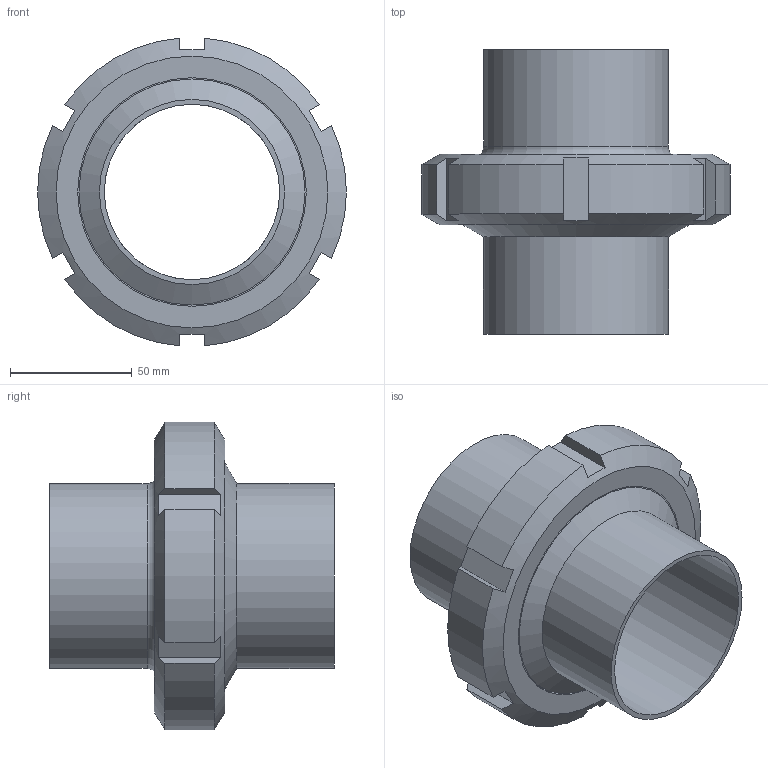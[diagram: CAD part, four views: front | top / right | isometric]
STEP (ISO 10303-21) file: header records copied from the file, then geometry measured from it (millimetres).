
FILE_DESCRIPTION(/* description */ ('Aseptik_Rohrverbindung_DIN 11864-1-A_76,1x2_L117'),/* implementation_level */ '2;1');
FILE_NAME(/* name */ 'L:\Normteile\N0024 - Rohrverbindungen\N0024_002 - DIN11864\N0024_002_001 - geschraubt\N0024_002_001\Step Marketing\DIN11864-1-A_76,1x2_L117.stp',/* time_stamp */ '2021-08-31T10:26:30+02:00',/* author */ ('Csasse'),/* organization */ ('Dockweiler AG'),/* preprocessor_version */ 'ST-DEVELOPER v18',/* originating_system */ 'Autodesk Inventor 2020',/* authorisation */ '');
FILE_SCHEMA (('AUTOMOTIVE_DESIGN { 1 0 10303 214 3 1 1 }'));
Length unit declared in the file: millimetre
Products named in the file (5): N0024_002_001_47; N0003_007_001_19; N0003_007_002_19; N0005_005_002_001_20; N0009_009_19
Assembly tree (4 placements, depth 2):
  N0024_002_001_47
    N0003_007_001_19
    N0003_007_002_19
    N0005_005_002_001_20
    N0009_009_19
Bounding box: 127 x 117 x 126.61 mm (x, y, z)
Volume: 288194.3 mm3; surface area: 112287.9 mm2
Topology: 4 solids, 4 shells, 68 faces, 200 edges, 144 vertices
Faces by surface type: plane 30, cylinder 16, torus 12, cone 10
Full cylindrical faces by diameter (mm): 72.1 x2, 76.1 x2, 93 x1, 94 x1, 98.9 x1, 99 x1, 103.65 x1, 110.635 x1
Entity records: 2600 total; most frequent: CARTESIAN_POINT 497, DIRECTION 434, ORIENTED_EDGE 400, EDGE_CURVE 200, AXIS2_PLACEMENT_3D 195, VERTEX_POINT 144, CIRCLE 118, EDGE_LOOP 80
